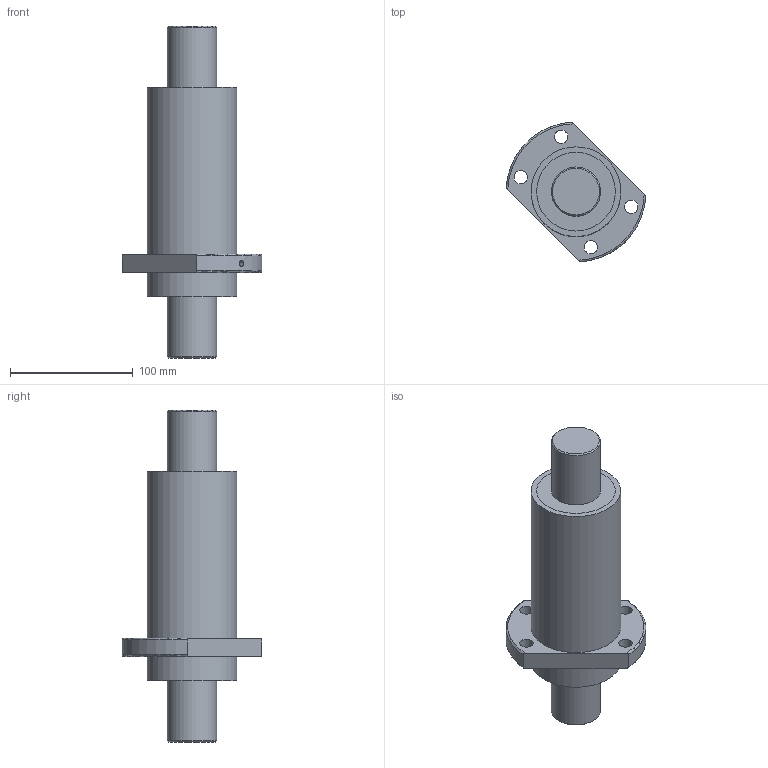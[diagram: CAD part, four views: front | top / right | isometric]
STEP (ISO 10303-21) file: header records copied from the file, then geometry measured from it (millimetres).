
FILE_DESCRIPTION(/* description */ (''),/* implementation_level */ '2;1');
FILE_NAME(/* name */ 'SFY40801.stp',/* time_stamp */ '2014-02-21T10:42:15+08:00',/* author */ (''),/* organization */ (''),/* preprocessor_version */ 'ST-DEVELOPER v11',/* originating_system */ 'SIEMENS UGS NX 6.0',/* authorisation */ '');
FILE_SCHEMA (('CONFIG_CONTROL_DESIGN'));
Length unit declared in the file: millimetre
Products named in the file (1): fann4717bkdq
Bounding box: 113.74 x 113.74 x 270 mm (x, y, z)
Volume: 886379.4 mm3; surface area: 128439.6 mm2
Topology: 4 solids, 4 shells, 56 faces, 107 edges, 73 vertices
Faces by surface type: cylinder 27, plane 23, torus 4, cone 2
Full cylindrical faces by diameter (mm): 4 x1, 5 x1, 11 x4, 40 x4, 58 x4, 64 x4, 65.5 x4, 73 x2
Entity records: 1580 total; most frequent: CARTESIAN_POINT 432, DIRECTION 236, ORIENTED_EDGE 148, AXIS2_PLACEMENT_3D 114, EDGE_LOOP 110, FACE_BOUND 100, EDGE_CURVE 74, VERTEX_POINT 66
